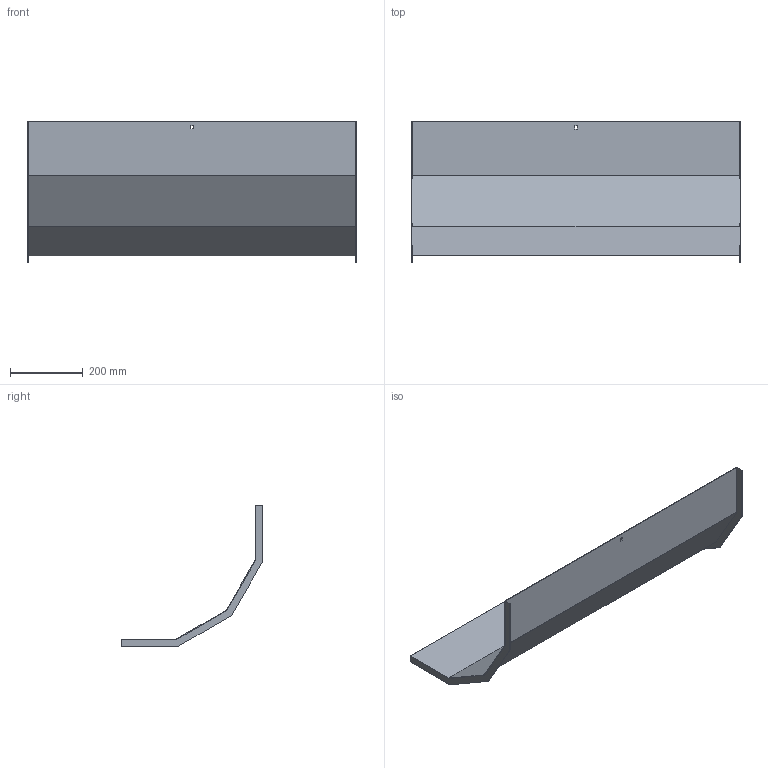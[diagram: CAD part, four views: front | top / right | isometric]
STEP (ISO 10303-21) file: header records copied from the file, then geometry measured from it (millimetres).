
FILE_DESCRIPTION (( 'STEP AP214' ), '1' );
FILE_NAME ('A2X30N3R900X.step', '2025-04-02T08:34:41', ( '' ), ( '' ), 'SwSTEP 2.0', 'SolidWorks 2023', '' );
FILE_SCHEMA (( 'AUTOMOTIVE_DESIGN' ));
Length unit declared in the file: millimetre
Products named in the file (1): A2X30N3R900X
Bounding box: 903 x 388.95 x 388.95 mm (x, y, z)
Volume: 877180.9 mm3; surface area: 1174441.6 mm2
Topology: 1 solids, 1 shells, 30 faces, 84 edges, 56 vertices
Faces by surface type: plane 30
Entity records: 979 total; most frequent: CARTESIAN_POINT 171, ORIENTED_EDGE 168, DIRECTION 146, LINE 84, EDGE_CURVE 84, VECTOR 84, VERTEX_POINT 56, EDGE_LOOP 34
